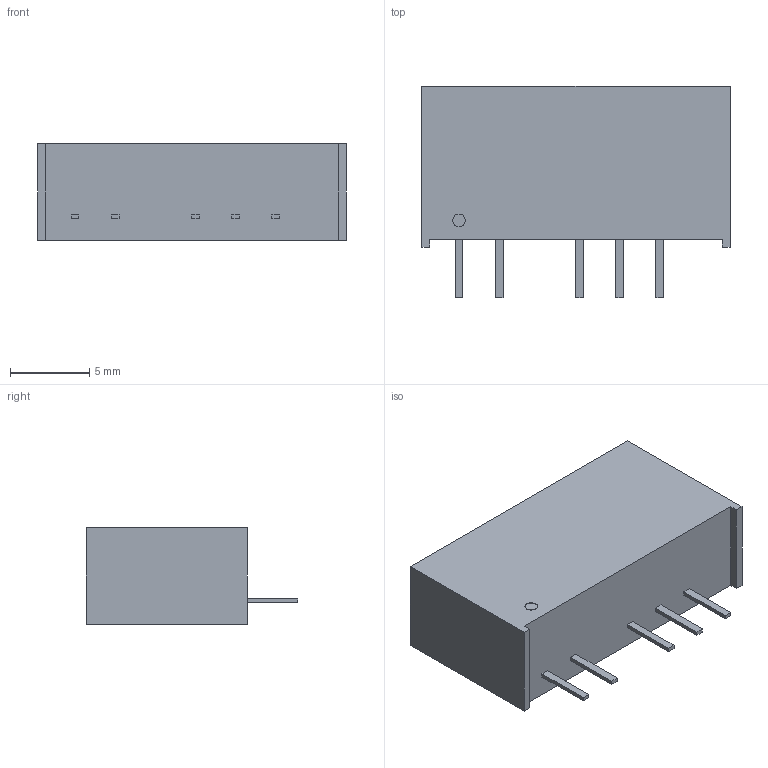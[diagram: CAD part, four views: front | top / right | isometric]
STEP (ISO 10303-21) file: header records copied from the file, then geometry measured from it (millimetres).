
FILE_DESCRIPTION (( 'STEP AP214' ), '1' );
FILE_NAME ('EC1SAN.STEP', '2018-01-03T05:25:33', ( 'cincon' ), ( '' ), 'SwSTEP 2.0', 'SolidWorks 2008', '' );
FILE_SCHEMA (( 'AUTOMOTIVE_DESIGN' ));
Length unit declared in the file: millimetre
Products named in the file (1): EC1SAN
Bounding box: 19.5 x 13.4 x 6.1 mm (x, y, z)
Volume: 1159.2 mm3; surface area: 775.6 mm2
Topology: 1 solids, 1 shells, 38 faces, 90 edges, 60 vertices
Faces by surface type: plane 36, cylinder 2
Entity records: 1101 total; most frequent: CARTESIAN_POINT 189, ORIENTED_EDGE 180, DIRECTION 172, EDGE_CURVE 90, LINE 86, VECTOR 86, VERTEX_POINT 60, EDGE_LOOP 44
